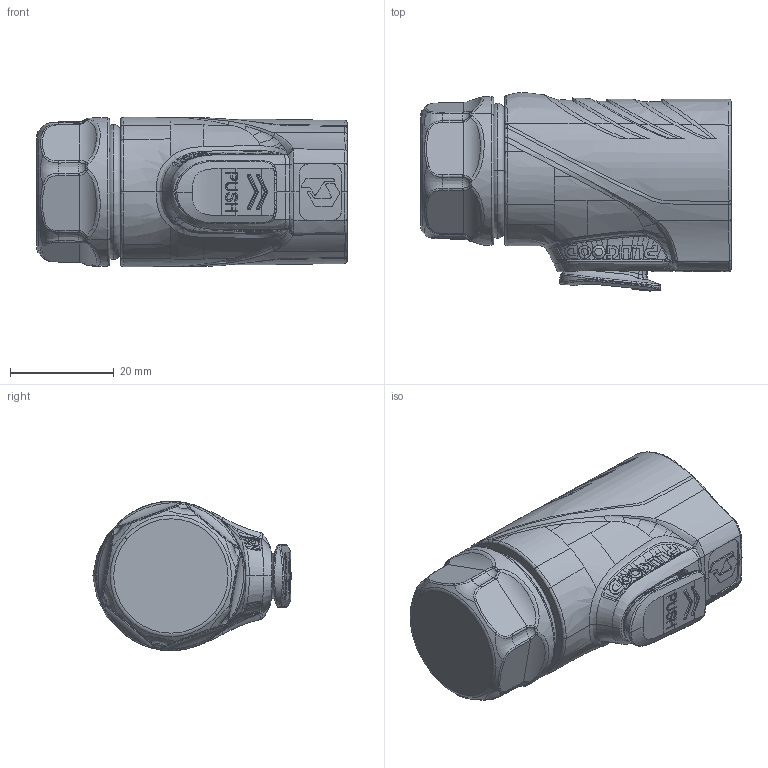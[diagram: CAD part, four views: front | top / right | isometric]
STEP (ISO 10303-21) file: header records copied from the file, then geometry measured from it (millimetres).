
FILE_DESCRIPTION (( 'STEP AP203' ), '1' );
FILE_NAME ('PLG20 3+3郋眻芛脣芛.STEP', '2025-09-18T08:07:02', ( '' ), ( '' ), 'SwSTEP 2.0', 'SolidWorks 2024', '' );
FILE_SCHEMA (( 'CONFIG_CONTROL_DESIGN' ));
Products named in the file (1): PLG20 3+3芯直头插头
Bounding box: 59.72 x 38.21 x 28.79 mm (x, y, z)
Volume: 34976.2 mm3; surface area: 14087.7 mm2
Topology: 3 solids, 3 shells, 1357 faces, 3638 edges, 2301 vertices
Faces by surface type: bspline 691, plane 303, cylinder 182, cone 92, torus 79, sphere 10
Entity records: 96790 total; most frequent: CARTESIAN_POINT 68771, ORIENTED_EDGE 7244, DIRECTION 3714, EDGE_CURVE 3622, VERTEX_POINT 2298, B_SPLINE_CURVE_WITH_KNOTS 1817, EDGE_LOOP 1400, AXIS2_PLACEMENT_3D 1380
